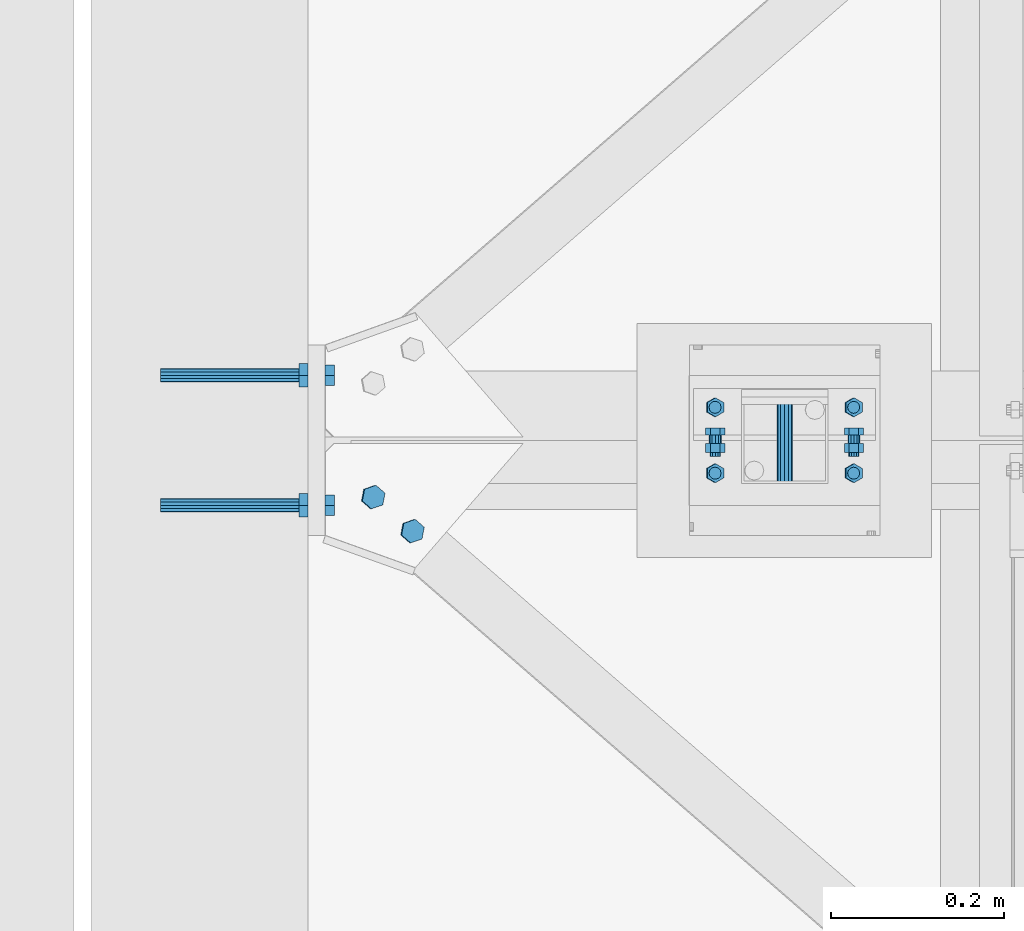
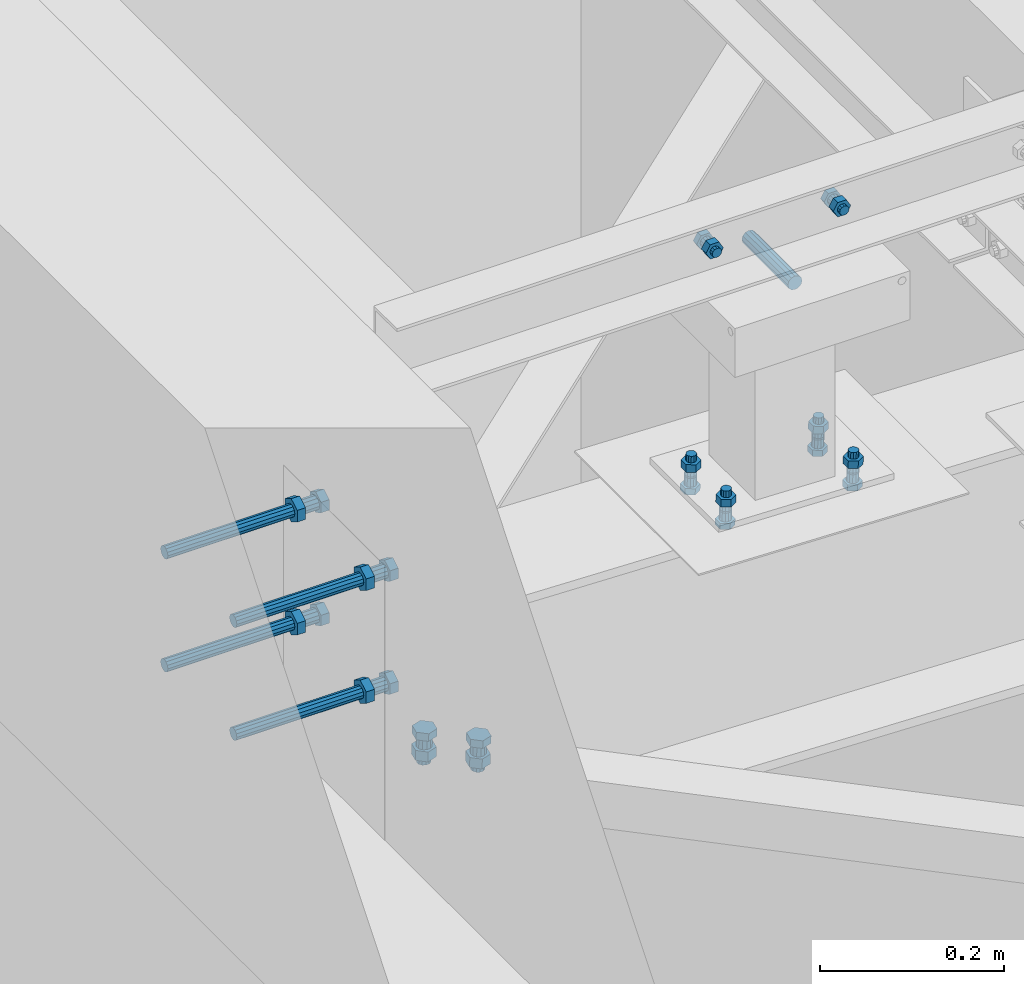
# One storey, part 234 of 3134: 6 mechanical fasteners, 3 elements without a shape of their own.
"""IFC2X3 building model written with IfcOpenShell, lengths in millimetres."""

from ifc_helpers import new_model, si_unit, frame, origin_with_axes, place, context, subcontext, project, spatial, faceted_brep, source, transform, mapped, material, type_object, element, aggregate, save


model = new_model("IFC2X3")

# Units and contexts
model_context = context("Model", 3, precision=1e-05, world=origin_with_axes())
body_context = subcontext(model_context, "Body", "Model", "MODEL_VIEW")
ifc_project = project(units=[si_unit("LENGTHUNIT", "METRE", prefix="MILLI"), si_unit("AREAUNIT", "SQUARE_METRE"), si_unit("VOLUMEUNIT", "CUBIC_METRE"), si_unit("MASSUNIT", "GRAM", prefix="KILO"), si_unit("TIMEUNIT", "SECOND"), si_unit("PLANEANGLEUNIT", "RADIAN"), si_unit("SOLIDANGLEUNIT", "STERADIAN"), si_unit("THERMODYNAMICTEMPERATUREUNIT", "DEGREE_CELSIUS"), si_unit("LUMINOUSINTENSITYUNIT", "LUMEN")], contexts=[model_context])

# Site, building, storey
site_placement = place(None, origin_with_axes())
site = spatial("IfcSite", under=ifc_project, at=site_placement, CompositionType="ELEMENT")
building_placement = place(site_placement, origin_with_axes())
building = spatial("IfcBuilding", under=site, at=building_placement, Name="Undefined", CompositionType="ELEMENT")
storey_placement = place(building_placement, origin_with_axes())
storey = spatial("IfcBuildingStorey", under=building, at=storey_placement, Name="Undefined", CompositionType="ELEMENT", Elevation=0.0)

# Assembly, mechanical fastener
assembly_1_placement = place(storey_placement, origin_with_axes())
assembly_1 = element("IfcElementAssembly", 1, at=assembly_1_placement, inside=storey, AssemblyPlace="NOTDEFINED", PredefinedType="RIGID_FRAME")
ifc_material_1 = material(Name="8.8")
mechanical_fastener_type = type_object("IfcMechanicalFastenerType", Name="Bolt assembly")
shared_shape_1 = source(origin_with_axes(), body_context, "Body", "Brep", [
    faceted_brep([(10.9696551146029, -14.0, 0.0), (5.48482755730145, -14.0, 9.5), (-5.48482755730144, -14.0, 9.5), (-10.9696551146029, -14.0, 1.34339530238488e-15), (-5.48482755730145, -14.0, -9.5), (5.48482755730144, -14.0, -9.50000000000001), (5.48482755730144, -6.0, -9.50000000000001), (-5.48482755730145, -6.0, -9.5), (-10.9696551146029, -6.0, 1.34339530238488e-15), (-5.48482755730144, -6.0, 9.5), (5.48482755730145, -6.0, 9.5), (10.9696551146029, -6.0, 0.0), (6.0, -6.0, 0.0), (5.19615242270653, -6.0, 3.00000000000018), (2.99999999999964, -6.0, 5.19615242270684), (-6.21801588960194e-13, -6.0, 6.0), (-3.00000000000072, -6.0, 5.19615242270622), (-5.19615242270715, -6.0, 2.9999999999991), (-6.0, -6.0, -1.24360317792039e-12), (-5.19615242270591, -6.0, -3.00000000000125), (-2.99999999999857, -6.0, -5.19615242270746), (1.85874342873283e-12, -6.0, -6.0), (3.00000000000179, -6.0, -5.1961524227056), (5.19615242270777, -6.0, -2.99999999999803), (5.19615242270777, 19.0, -2.99999999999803), (3.00000000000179, 19.0, -5.1961524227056), (1.85874342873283e-12, 19.0, -6.0), (-2.99999999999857, 19.0, -5.19615242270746), (-5.19615242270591, 19.0, -3.00000000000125), (-6.0, 19.0, -1.24360317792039e-12), (-5.19615242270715, 19.0, 2.9999999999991), (-3.00000000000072, 19.0, 5.19615242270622), (-6.21801588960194e-13, 19.0, 6.0), (2.99999999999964, 19.0, 5.19615242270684), (5.19615242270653, 19.0, 3.00000000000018), (6.0, 19.0, 0.0), (10.9696551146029, 4.00000000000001, 0.0), (5.48482755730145, 4.00000000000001, 9.5), (-5.48482755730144, 4.00000000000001, 9.5), (-10.9696551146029, 4.00000000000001, 1.34339530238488e-15), (-5.48482755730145, 4.00000000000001, -9.5), (5.48482755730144, 4.00000000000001, -9.50000000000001), (5.48482755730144, 14.0, -9.50000000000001), (-5.48482755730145, 14.0, -9.5), (-10.9696551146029, 14.0, 1.34339530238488e-15), (-5.48482755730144, 14.0, 9.5), (5.48482755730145, 14.0, 9.5), (10.9696551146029, 14.0, 0.0)], [[[0, 1, 2, 3, 4, 5]], [[6, 7, 8, 9, 10, 11]], [[0, 11, 10, 1]], [[1, 10, 9, 2]], [[2, 9, 8, 3]], [[3, 8, 7, 4]], [[4, 7, 6, 5]], [[5, 6, 11, 0]], [[12, 13, 14, 15, 16, 17, 18, 19, 20, 21, 22, 23]], [[24, 25, 26, 27, 28, 29, 30, 31, 32, 33, 34, 35]], [[12, 35, 34, 13]], [[13, 34, 33, 14]], [[14, 33, 32, 15]], [[15, 32, 31, 16]], [[16, 31, 30, 17]], [[17, 30, 29, 18]], [[18, 29, 28, 19]], [[19, 28, 27, 20]], [[20, 27, 26, 21]], [[21, 26, 25, 22]], [[22, 25, 24, 23]], [[23, 24, 35, 12]], [[36, 37, 38, 39, 40, 41]], [[42, 43, 44, 45, 46, 47]], [[36, 47, 46, 37]], [[37, 46, 45, 38]], [[38, 45, 44, 39]], [[39, 44, 43, 40]], [[40, 43, 42, 41]], [[41, 42, 47, 36]]]),
    faceted_brep([(7.0, -0.1, 0.0), (6.06217782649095, -0.1, 3.50000000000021), (3.49999999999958, -0.1, 6.06217782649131), (-7.25435187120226e-13, -0.1, 7.0), (-3.50000000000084, -0.1, 6.06217782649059), (-6.06217782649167, -0.1, 3.49999999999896), (-7.0, -0.1, -1.45087037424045e-12), (-6.06217782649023, -0.1, -3.50000000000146), (-3.49999999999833, -0.1, -6.06217782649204), (2.1685340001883e-12, -0.1, -7.0), (3.50000000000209, -0.1, -6.06217782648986), (6.0621778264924, -0.1, -3.4999999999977), (6.0621778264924, 4.00000000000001, -3.4999999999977), (3.50000000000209, 4.00000000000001, -6.06217782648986), (2.1685340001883e-12, 4.00000000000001, -7.0), (-3.49999999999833, 4.00000000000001, -6.06217782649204), (-6.06217782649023, 4.00000000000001, -3.50000000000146), (-7.0, 4.00000000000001, -1.45087037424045e-12), (-6.06217782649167, 4.00000000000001, 3.49999999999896), (-3.50000000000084, 4.00000000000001, 6.06217782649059), (-7.25435187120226e-13, 4.00000000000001, 7.0), (3.49999999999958, 4.00000000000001, 6.06217782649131), (6.06217782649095, 4.00000000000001, 3.50000000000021), (7.0, 4.00000000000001, 0.0), (7.0, -5.9, 0.0), (6.06217782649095, -5.9, 3.50000000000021), (3.49999999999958, -5.9, 6.06217782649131), (-7.25435187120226e-13, -5.9, 7.0), (-3.50000000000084, -5.9, 6.06217782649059), (-6.06217782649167, -5.9, 3.49999999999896), (-7.0, -5.9, -1.45087037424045e-12), (-6.06217782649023, -5.9, -3.50000000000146), (-3.49999999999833, -5.9, -6.06217782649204), (2.1685340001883e-12, -5.9, -7.0), (3.50000000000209, -5.9, -6.06217782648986), (6.0621778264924, -5.9, -3.4999999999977), (6.0621778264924, 0.0999999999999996, -3.4999999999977), (3.50000000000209, 0.0999999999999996, -6.06217782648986), (2.1685340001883e-12, 0.0999999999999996, -7.0), (-3.49999999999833, 0.0999999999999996, -6.06217782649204), (-6.06217782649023, 0.0999999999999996, -3.50000000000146), (-7.0, 0.0999999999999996, -1.45087037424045e-12), (-6.06217782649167, 0.0999999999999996, 3.49999999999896), (-3.50000000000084, 0.0999999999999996, 6.06217782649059), (-7.25435187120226e-13, 0.0999999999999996, 7.0), (3.49999999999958, 0.0999999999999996, 6.06217782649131), (6.06217782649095, 0.0999999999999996, 3.50000000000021), (7.0, 0.0999999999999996, 0.0)], [[[0, 1, 2, 3, 4, 5, 6, 7, 8, 9, 10, 11]], [[12, 13, 14, 15, 16, 17, 18, 19, 20, 21, 22, 23]], [[0, 23, 22, 1]], [[1, 22, 21, 2]], [[2, 21, 20, 3]], [[3, 20, 19, 4]], [[4, 19, 18, 5]], [[5, 18, 17, 6]], [[6, 17, 16, 7]], [[7, 16, 15, 8]], [[8, 15, 14, 9]], [[9, 14, 13, 10]], [[10, 13, 12, 11]], [[11, 12, 23, 0]], [[24, 25, 26, 27, 28, 29, 30, 31, 32, 33, 34, 35]], [[36, 37, 38, 39, 40, 41, 42, 43, 44, 45, 46, 47]], [[24, 47, 46, 25]], [[25, 46, 45, 26]], [[26, 45, 44, 27]], [[27, 44, 43, 28]], [[28, 43, 42, 29]], [[29, 42, 41, 30]], [[30, 41, 40, 31]], [[31, 40, 39, 32]], [[32, 39, 38, 33]], [[33, 38, 37, 34]], [[34, 37, 36, 35]], [[35, 36, 47, 24]]]),
])
mechanical_fastener_1_placement = place(assembly_1_placement, frame((20440.0, 60985.0, 10900.0), z_axis=(0.0, 0.0, 1.0), x_axis=(-1.0, 0.0, 0.0)))
mechanical_fastener_1 = element("IfcMechanicalFastener", 2, at=mechanical_fastener_1_placement, type_object=mechanical_fastener_type, material=ifc_material_1, Name="Bolt assembly", NominalDiameter=12.0, NominalLength=25.0, context=body_context, shape_type="MappedRepresentation", body=[
    mapped(shared_shape_1, transform((0.0, 0.0, 0.0))),
    mapped(shared_shape_1, transform((160.0, 0.0, 0.0))),
])

assembly_2_placement = place(storey_placement, origin_with_axes())
assembly_2 = element("IfcElementAssembly", 3, at=assembly_2_placement, inside=storey, AssemblyPlace="NOTDEFINED", PredefinedType="RIGID_FRAME")
shared_shape_2 = source(origin_with_axes(), body_context, "Body", "Brep", [
    faceted_brep([(7.0, 13.0000253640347, 0.0), (6.06217782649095, 13.0000253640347, 3.50000000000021), (3.49999999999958, 13.0000253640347, 6.06217782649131), (-7.25435187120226e-13, 13.0000253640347, 7.0), (-3.50000000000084, 13.0000253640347, 6.06217782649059), (-6.06217782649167, 13.0000253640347, 3.49999999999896), (-7.0, 13.0000253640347, -1.45087037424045e-12), (-6.06217782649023, 13.0000253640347, -3.50000000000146), (-3.49999999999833, 13.0000253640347, -6.06217782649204), (2.1685340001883e-12, 13.0000253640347, -7.0), (3.50000000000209, 13.0000253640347, -6.06217782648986), (6.0621778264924, 13.0000253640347, -3.4999999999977), (6.0621778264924, 15.0999999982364, -3.4999999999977), (3.50000000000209, 15.0999999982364, -6.06217782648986), (2.1685340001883e-12, 15.0999999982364, -7.0), (-3.49999999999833, 15.0999999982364, -6.06217782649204), (-6.06217782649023, 15.0999999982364, -3.50000000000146), (-7.0, 15.0999999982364, -1.45087037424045e-12), (-6.06217782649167, 15.0999999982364, 3.49999999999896), (-3.50000000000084, 15.0999999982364, 6.06217782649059), (-7.25435187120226e-13, 15.0999999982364, 7.0), (3.49999999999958, 15.0999999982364, 6.06217782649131), (6.06217782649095, 15.0999999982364, 3.50000000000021), (7.0, 15.0999999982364, 0.0)], [[[0, 1, 2, 3, 4, 5, 6, 7, 8, 9, 10, 11]], [[12, 13, 14, 15, 16, 17, 18, 19, 20, 21, 22, 23]], [[0, 23, 22, 1]], [[1, 22, 21, 2]], [[2, 21, 20, 3]], [[3, 20, 19, 4]], [[4, 19, 18, 5]], [[5, 18, 17, 6]], [[6, 17, 16, 7]], [[7, 16, 15, 8]], [[8, 15, 14, 9]], [[9, 14, 13, 10]], [[10, 13, 12, 11]], [[11, 12, 23, 0]]]),
])
mechanical_fastener_2_placement = place(assembly_2_placement, frame((20359.2851187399, 61023.0, 10554.9572055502), z_axis=(-0.99951962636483, 0.0, 0.0309922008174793), x_axis=(0.0, -1.0, 0.0)))
mechanical_fastener_2 = element("IfcMechanicalFastener", 4, at=mechanical_fastener_2_placement, type_object=mechanical_fastener_type, material=ifc_material_1, Name="Bolt assembly", NominalDiameter=12.0, NominalLength=2.0, context=body_context, shape_type="MappedRepresentation", body=[
    mapped(shared_shape_2, transform((0.0, -5.32963895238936e-10, -79.9999999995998))),
    mapped(shared_shape_2, transform((76.0, -5.32963895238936e-10, -79.9999999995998))),
    mapped(shared_shape_2, transform((0.0, 5.3114490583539e-10, 79.9999999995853))),
    mapped(shared_shape_2, transform((76.0, 5.3114490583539e-10, 79.9999999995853))),
])
aggregate(assembly_2, [mechanical_fastener_2])

# Mechanical fastener
shared_shape_3 = source(origin_with_axes(), body_context, "Body", "Brep", [
    faceted_brep([(9.0, -50.0, 0.0), (7.79422863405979, -50.0, 4.50000000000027), (4.49999999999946, -50.0, 7.79422863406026), (-9.3270238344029e-13, -50.0, 9.0), (-4.50000000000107, -50.0, 7.79422863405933), (-7.79422863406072, -50.0, 4.49999999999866), (-9.0, -50.0, -1.86540476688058e-12), (-7.79422863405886, -50.0, -4.50000000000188), (-4.49999999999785, -50.0, -7.79422863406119), (2.78811514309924e-12, -50.0, -9.0), (4.50000000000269, -50.0, -7.7942286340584), (7.79422863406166, -50.0, -4.49999999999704), (7.79422863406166, 50.1, -4.49999999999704), (4.50000000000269, 50.1, -7.7942286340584), (2.78811514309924e-12, 50.1, -9.0), (-4.49999999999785, 50.1, -7.79422863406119), (-7.79422863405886, 50.1, -4.50000000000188), (-9.0, 50.1, -1.86540476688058e-12), (-7.79422863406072, 50.1, 4.49999999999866), (-4.50000000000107, 50.1, 7.79422863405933), (-9.3270238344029e-13, 50.1, 9.0), (4.49999999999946, 50.1, 7.79422863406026), (7.79422863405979, 50.1, 4.50000000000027), (9.0, 50.1, 0.0)], [[[0, 1, 2, 3, 4, 5, 6, 7, 8, 9, 10, 11]], [[12, 13, 14, 15, 16, 17, 18, 19, 20, 21, 22, 23]], [[0, 23, 22, 1]], [[1, 22, 21, 2]], [[2, 21, 20, 3]], [[3, 20, 19, 4]], [[4, 19, 18, 5]], [[5, 18, 17, 6]], [[6, 17, 16, 7]], [[7, 16, 15, 8]], [[8, 15, 14, 9]], [[9, 14, 13, 10]], [[10, 13, 12, 11]], [[11, 12, 23, 0]]]),
])
mechanical_fastener_3_placement = place(assembly_1_placement, frame((20360.0, 60985.0, 10851.0), z_axis=(-1.0, 0.0, 0.0), x_axis=(0.0, 0.0, 1.0)))
mechanical_fastener_3 = element("IfcMechanicalFastener", 5, at=mechanical_fastener_3_placement, type_object=mechanical_fastener_type, material=ifc_material_1, Name="Bolt assembly", NominalDiameter=16.0, NominalLength=100.0, context=body_context, shape_type="MappedRepresentation", body=[
    mapped(shared_shape_3, transform((0.0, 0.0, 0.0))),
])

aggregate(assembly_1, [mechanical_fastener_3, mechanical_fastener_1])

# Assembly, mechanical fasteners
assembly_3_placement = place(storey_placement, origin_with_axes())
assembly_3 = element("IfcElementAssembly", 6, at=assembly_3_placement, inside=storey, Name="IPE330", AssemblyPlace="NOTDEFINED", PredefinedType="RIGID_FRAME")
shared_shape_4 = source(origin_with_axes(), body_context, "Body", "Brep", [
    faceted_brep([(13.856406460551, -14.0, 0.0), (6.92820323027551, -14.0, 12.0), (-6.92820323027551, -14.0, 12.0), (-13.856406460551, -14.0, 1.69692038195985e-15), (-6.92820323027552, -14.0, -12.0), (6.9282032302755, -14.0, -12.0), (6.9282032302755, -4.00000145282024, -12.0), (-6.92820323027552, -4.00000145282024, -12.0), (-13.856406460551, -4.00000145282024, 1.69692038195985e-15), (-6.92820323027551, -4.00000145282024, 12.0), (6.92820323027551, -4.00000145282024, 12.0), (13.856406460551, -4.00000145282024, 0.0), (8.0, -4.00000145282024, 0.0), (6.92820323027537, -4.00000145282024, 4.00000000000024), (3.99999999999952, -4.00000145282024, 6.92820323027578), (-8.29068785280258e-13, -4.00000145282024, 8.0), (-4.00000000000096, -4.00000145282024, 6.92820323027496), (-6.9282032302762, -4.00000145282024, 3.99999999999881), (-8.0, -4.00000145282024, -1.65813757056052e-12), (-6.92820323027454, -4.00000145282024, -4.00000000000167), (-3.99999999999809, -4.00000145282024, -6.92820323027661), (2.47832457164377e-12, -4.00000145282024, -8.0), (4.00000000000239, -4.00000145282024, -6.92820323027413), (6.92820323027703, -4.00000145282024, -3.99999999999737), (6.92820323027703, 31.0, -3.99999999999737), (4.00000000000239, 31.0, -6.92820323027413), (2.47832457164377e-12, 31.0, -8.0), (-3.99999999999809, 31.0, -6.92820323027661), (-6.92820323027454, 31.0, -4.00000000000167), (-8.0, 31.0, -1.65813757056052e-12), (-6.9282032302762, 31.0, 3.99999999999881), (-4.00000000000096, 31.0, 6.92820323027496), (-8.29068785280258e-13, 31.0, 8.0), (3.99999999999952, 31.0, 6.92820323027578), (6.92820323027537, 31.0, 4.00000000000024), (8.0, 31.0, 0.0), (13.856406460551, 10.0000943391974, 0.0), (6.92820323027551, 10.0000943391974, 12.0), (-6.92820323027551, 10.0000943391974, 12.0), (-13.856406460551, 10.0000943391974, 1.69692038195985e-15), (-6.92820323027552, 10.0000943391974, -12.0), (6.9282032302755, 10.0000943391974, -12.0), (6.9282032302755, 23.0000943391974, -12.0), (-6.92820323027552, 23.0000943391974, -12.0), (-13.856406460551, 23.0000943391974, 1.69692038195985e-15), (-6.92820323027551, 23.0000943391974, 12.0), (6.92820323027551, 23.0000943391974, 12.0), (13.856406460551, 23.0000943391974, 0.0)], [[[0, 1, 2, 3, 4, 5]], [[6, 7, 8, 9, 10, 11]], [[0, 11, 10, 1]], [[1, 10, 9, 2]], [[2, 9, 8, 3]], [[3, 8, 7, 4]], [[4, 7, 6, 5]], [[5, 6, 11, 0]], [[12, 13, 14, 15, 16, 17, 18, 19, 20, 21, 22, 23]], [[24, 25, 26, 27, 28, 29, 30, 31, 32, 33, 34, 35]], [[12, 35, 34, 13]], [[13, 34, 33, 14]], [[14, 33, 32, 15]], [[15, 32, 31, 16]], [[16, 31, 30, 17]], [[17, 30, 29, 18]], [[18, 29, 28, 19]], [[19, 28, 27, 20]], [[20, 27, 26, 21]], [[21, 26, 25, 22]], [[22, 25, 24, 23]], [[23, 24, 35, 12]], [[36, 37, 38, 39, 40, 41]], [[42, 43, 44, 45, 46, 47]], [[36, 47, 46, 37]], [[37, 46, 45, 38]], [[38, 45, 44, 39]], [[39, 44, 43, 40]], [[40, 43, 42, 41]], [[41, 42, 47, 36]]]),
    faceted_brep([(9.0, 3.90009433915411, 0.0), (7.79422863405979, 3.90009433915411, 4.50000000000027), (4.49999999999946, 3.90009433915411, 7.79422863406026), (-9.3270238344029e-13, 3.90009433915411, 9.0), (-4.50000000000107, 3.90009433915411, 7.79422863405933), (-7.79422863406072, 3.90009433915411, 4.49999999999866), (-9.0, 3.90009433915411, -1.86540476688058e-12), (-7.79422863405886, 3.90009433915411, -4.50000000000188), (-4.49999999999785, 3.90009433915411, -7.79422863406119), (2.78811514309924e-12, 3.90009433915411, -9.0), (4.50000000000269, 3.90009433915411, -7.7942286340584), (7.79422863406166, 3.90009433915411, -4.49999999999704), (7.79422863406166, 10.0000943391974, -4.49999999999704), (4.50000000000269, 10.0000943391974, -7.7942286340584), (2.78811514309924e-12, 10.0000943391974, -9.0), (-4.49999999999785, 10.0000943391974, -7.79422863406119), (-7.79422863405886, 10.0000943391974, -4.50000000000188), (-9.0, 10.0000943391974, -1.86540476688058e-12), (-7.79422863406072, 10.0000943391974, 4.49999999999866), (-4.50000000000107, 10.0000943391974, 7.79422863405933), (-9.3270238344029e-13, 10.0000943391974, 9.0), (4.49999999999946, 10.0000943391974, 7.79422863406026), (7.79422863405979, 10.0000943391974, 4.50000000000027), (9.0, 10.0000943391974, 0.0), (9.0, -3.9, 0.0), (7.79422863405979, -3.9, 4.50000000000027), (4.49999999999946, -3.9, 7.79422863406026), (-9.3270238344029e-13, -3.9, 9.0), (-4.50000000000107, -3.9, 7.79422863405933), (-7.79422863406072, -3.9, 4.49999999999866), (-9.0, -3.9, -1.86540476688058e-12), (-7.79422863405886, -3.9, -4.50000000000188), (-4.49999999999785, -3.9, -7.79422863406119), (2.78811514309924e-12, -3.9, -9.0), (4.50000000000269, -3.9, -7.7942286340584), (7.79422863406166, -3.9, -4.49999999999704), (7.79422863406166, 4.09999854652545, -4.49999999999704), (4.50000000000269, 4.09999854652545, -7.7942286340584), (2.78811514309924e-12, 4.09999854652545, -9.0), (-4.49999999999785, 4.09999854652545, -7.79422863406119), (-7.79422863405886, 4.09999854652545, -4.50000000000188), (-9.0, 4.09999854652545, -1.86540476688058e-12), (-7.79422863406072, 4.09999854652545, 4.49999999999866), (-4.50000000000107, 4.09999854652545, 7.79422863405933), (-9.3270238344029e-13, 4.09999854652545, 9.0), (4.49999999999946, 4.09999854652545, 7.79422863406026), (7.79422863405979, 4.09999854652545, 4.50000000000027), (9.0, 4.09999854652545, 0.0)], [[[0, 1, 2, 3, 4, 5, 6, 7, 8, 9, 10, 11]], [[12, 13, 14, 15, 16, 17, 18, 19, 20, 21, 22, 23]], [[0, 23, 22, 1]], [[1, 22, 21, 2]], [[2, 21, 20, 3]], [[3, 20, 19, 4]], [[4, 19, 18, 5]], [[5, 18, 17, 6]], [[6, 17, 16, 7]], [[7, 16, 15, 8]], [[8, 15, 14, 9]], [[9, 14, 13, 10]], [[10, 13, 12, 11]], [[11, 12, 23, 0]], [[24, 25, 26, 27, 28, 29, 30, 31, 32, 33, 34, 35]], [[36, 37, 38, 39, 40, 41, 42, 43, 44, 45, 46, 47]], [[24, 47, 46, 25]], [[25, 46, 45, 26]], [[26, 45, 44, 27]], [[27, 44, 43, 28]], [[28, 43, 42, 29]], [[29, 42, 41, 30]], [[30, 41, 40, 31]], [[31, 40, 39, 32]], [[32, 39, 38, 33]], [[33, 38, 37, 34]], [[34, 37, 36, 35]], [[35, 36, 47, 24]]]),
])
mechanical_fastener_4_placement = place(assembly_3_placement, frame((19930.7692656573, 60880.1149029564, 10421.1792912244), z_axis=(-0.655215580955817, -0.75516884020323, 0.0203117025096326), x_axis=(-0.754806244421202, 0.655530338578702, 0.0233989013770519)))
mechanical_fastener_4 = element("IfcMechanicalFastener", 7, at=mechanical_fastener_4_placement, type_object=mechanical_fastener_type, material=ifc_material_1, Name="Bolt assembly", NominalDiameter=16.0, NominalLength=35.0, context=body_context, shape_type="MappedRepresentation", body=[
    mapped(shared_shape_4, transform((0.0, 0.0, 0.0))),
    mapped(shared_shape_4, transform((59.9999999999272, 0.0, 5.40239852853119e-10))),
])
ifc_material_2 = material(Name="HILTI-HAS")
shared_shape_5 = source(origin_with_axes(), body_context, "Body", "Brep", [
    faceted_brep([(13.856406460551, -10.56, 0.0), (6.92820323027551, -10.56, 12.0), (-6.92820323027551, -10.56, 12.0), (-13.856406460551, -10.56, 1.69692038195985e-15), (-6.92820323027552, -10.56, -12.0), (6.9282032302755, -10.56, -12.0), (6.9282032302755, 0.0, -12.0), (-6.92820323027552, 0.0, -12.0), (-13.856406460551, 0.0, 1.69692038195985e-15), (-6.92820323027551, 0.0, 12.0), (6.92820323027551, 0.0, 12.0), (13.856406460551, 0.0, 0.0), (8.0, 0.0, 0.0), (6.92820323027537, 0.0, 4.00000000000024), (3.99999999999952, 0.0, 6.92820323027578), (-8.29068785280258e-13, 0.0, 8.0), (-4.00000000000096, 0.0, 6.92820323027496), (-6.9282032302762, 0.0, 3.99999999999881), (-8.0, 0.0, -1.65813757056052e-12), (-6.92820323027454, 0.0, -4.00000000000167), (-3.99999999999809, 0.0, -6.92820323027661), (2.47832457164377e-12, 0.0, -8.0), (4.00000000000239, 0.0, -6.92820323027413), (6.92820323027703, 0.0, -3.99999999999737), (6.92820323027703, 190.0, -3.99999999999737), (4.00000000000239, 190.0, -6.92820323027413), (2.47832457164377e-12, 190.0, -8.0), (-3.99999999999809, 190.0, -6.92820323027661), (-6.92820323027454, 190.0, -4.00000000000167), (-8.0, 190.0, -1.65813757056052e-12), (-6.9282032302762, 190.0, 3.99999999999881), (-4.00000000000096, 190.0, 6.92820323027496), (-8.29068785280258e-13, 190.0, 8.0), (3.99999999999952, 190.0, 6.92820323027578), (6.92820323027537, 190.0, 4.00000000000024), (8.0, 190.0, 0.0), (15.3344231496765, 20.0, 0.0), (7.66721157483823, 20.0, 13.28), (-7.66721157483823, 20.0, 13.28), (-15.3344231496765, 20.0, 1.87792522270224e-15), (-7.66721157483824, 20.0, -13.28), (7.66721157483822, 20.0, -13.28), (7.66721157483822, 30.56, -13.28), (-7.66721157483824, 30.56, -13.28), (-15.3344231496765, 30.56, 1.87792522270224e-15), (-7.66721157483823, 30.56, 13.28), (7.66721157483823, 30.56, 13.28), (15.3344231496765, 30.56, 0.0)], [[[0, 1, 2, 3, 4, 5]], [[6, 7, 8, 9, 10, 11]], [[0, 11, 10, 1]], [[1, 10, 9, 2]], [[2, 9, 8, 3]], [[3, 8, 7, 4]], [[4, 7, 6, 5]], [[5, 6, 11, 0]], [[12, 13, 14, 15, 16, 17, 18, 19, 20, 21, 22, 23]], [[24, 25, 26, 27, 28, 29, 30, 31, 32, 33, 34, 35]], [[12, 35, 34, 13]], [[13, 34, 33, 14]], [[14, 33, 32, 15]], [[15, 32, 31, 16]], [[16, 31, 30, 17]], [[17, 30, 29, 18]], [[18, 29, 28, 19]], [[19, 28, 27, 20]], [[20, 27, 26, 21]], [[21, 26, 25, 22]], [[22, 25, 24, 23]], [[23, 24, 35, 12]], [[36, 37, 38, 39, 40, 41]], [[42, 43, 44, 45, 46, 47]], [[36, 47, 46, 37]], [[37, 46, 45, 38]], [[38, 45, 44, 39]], [[39, 44, 43, 40]], [[40, 43, 42, 41]], [[41, 42, 47, 36]]]),
    faceted_brep([(9.0, -3.46568413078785e-07, 0.0), (7.79422863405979, -3.46568413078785e-07, 4.50000000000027), (4.49999999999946, -3.46568413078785e-07, 7.79422863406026), (-9.3270238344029e-13, -3.46568413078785e-07, 9.0), (-4.50000000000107, -3.46568413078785e-07, 7.79422863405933), (-7.79422863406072, -3.46568413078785e-07, 4.49999999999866), (-9.0, -3.46568413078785e-07, -1.86540476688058e-12), (-7.79422863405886, -3.46568413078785e-07, -4.50000000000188), (-4.49999999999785, -3.46568413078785e-07, -7.79422863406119), (2.78811514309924e-12, -3.46568413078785e-07, -9.0), (4.50000000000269, -3.46568413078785e-07, -7.7942286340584), (7.79422863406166, -3.46568413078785e-07, -4.49999999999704), (7.79422863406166, 20.0999997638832, -4.49999999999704), (4.50000000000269, 20.0999997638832, -7.7942286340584), (2.78811514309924e-12, 20.0999997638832, -9.0), (-4.49999999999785, 20.0999997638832, -7.79422863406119), (-7.79422863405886, 20.0999997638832, -4.50000000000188), (-9.0, 20.0999997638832, -1.86540476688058e-12), (-7.79422863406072, 20.0999997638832, 4.49999999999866), (-4.50000000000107, 20.0999997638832, 7.79422863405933), (-9.3270238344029e-13, 20.0999997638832, 9.0), (4.49999999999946, 20.0999997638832, 7.79422863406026), (7.79422863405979, 20.0999997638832, 4.50000000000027), (9.0, 20.0999997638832, 0.0)], [[[0, 1, 2, 3, 4, 5, 6, 7, 8, 9, 10, 11]], [[12, 13, 14, 15, 16, 17, 18, 19, 20, 21, 22, 23]], [[0, 23, 22, 1]], [[1, 22, 21, 2]], [[2, 21, 20, 3]], [[3, 20, 19, 4]], [[4, 19, 18, 5]], [[5, 18, 17, 6]], [[6, 17, 16, 7]], [[7, 16, 15, 8]], [[8, 15, 14, 9]], [[9, 14, 13, 10]], [[10, 13, 12, 11]], [[11, 12, 23, 0]]]),
])
mechanical_fastener_5_placement = place(assembly_3_placement, frame((19830.0, 60985.0, 10669.4424502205), z_axis=(0.0, 1.0, 0.0), x_axis=(0.0, 0.0, -1.0)))
mechanical_fastener_5 = element("IfcMechanicalFastener", 8, at=mechanical_fastener_5_placement, type_object=mechanical_fastener_type, material=ifc_material_2, Name="Bolt assembly", NominalDiameter=16.0, NominalLength=190.0, context=body_context, shape_type="MappedRepresentation", body=[
    mapped(shared_shape_5, transform((0.0, 0.0, -75.0))),
    mapped(shared_shape_5, transform((150.0, 0.0, -75.0))),
    mapped(shared_shape_5, transform((0.0, 0.0, 75.0))),
    mapped(shared_shape_5, transform((150.0, 0.0, 75.0))),
])
shared_shape_6 = source(origin_with_axes(), body_context, "Body", "Brep", [
    faceted_brep([(10.9696551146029, -6.49073359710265, 0.0), (5.48482755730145, -6.49073359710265, 9.5), (-5.48482755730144, -6.49073359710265, 9.5), (-10.9696551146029, -6.49073359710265, 1.34339530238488e-15), (-5.48482755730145, -6.49073359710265, -9.5), (5.48482755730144, -6.49073359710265, -9.50000000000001), (5.48482755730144, 1.50926640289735, -9.50000000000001), (-5.48482755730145, 1.50926640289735, -9.5), (-10.9696551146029, 1.50926640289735, 1.34339530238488e-15), (-5.48482755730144, 1.50926640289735, 9.5), (5.48482755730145, 1.50926640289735, 9.5), (10.9696551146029, 1.50926640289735, 0.0), (6.0, 1.50926640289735, 0.0), (5.19615242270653, 1.50926640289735, 3.00000000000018), (2.99999999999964, 1.50926640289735, 5.19615242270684), (-6.21801588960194e-13, 1.50926640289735, 6.0), (-3.00000000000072, 1.50926640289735, 5.19615242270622), (-5.19615242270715, 1.50926640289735, 2.9999999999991), (-6.0, 1.50926640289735, -1.24360317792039e-12), (-5.19615242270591, 1.50926640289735, -3.00000000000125), (-2.99999999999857, 1.50926640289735, -5.19615242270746), (1.85874342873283e-12, 1.50926640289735, -6.0), (3.00000000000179, 1.50926640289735, -5.1961524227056), (5.19615242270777, 1.50926640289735, -2.99999999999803), (5.19615242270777, 41.5092664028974, -2.99999999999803), (3.00000000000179, 41.5092664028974, -5.1961524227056), (1.85874342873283e-12, 41.5092664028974, -6.0), (-2.99999999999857, 41.5092664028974, -5.19615242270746), (-5.19615242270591, 41.5092664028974, -3.00000000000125), (-6.0, 41.5092664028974, -1.24360317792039e-12), (-5.19615242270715, 41.5092664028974, 2.9999999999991), (-3.00000000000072, 41.5092664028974, 5.19615242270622), (-6.21801588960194e-13, 41.5092664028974, 6.0), (2.99999999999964, 41.5092664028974, 5.19615242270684), (5.19615242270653, 41.5092664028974, 3.00000000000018), (6.0, 41.5092664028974, 0.0), (10.9696551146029, 23.0139082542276, 0.0), (5.48482755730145, 23.0139082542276, 9.5), (-5.48482755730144, 23.0139082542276, 9.5), (-10.9696551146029, 23.0139082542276, 1.34339530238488e-15), (-5.48482755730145, 23.0139082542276, -9.5), (5.48482755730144, 23.0139082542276, -9.50000000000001), (5.48482755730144, 33.0139082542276, -9.50000000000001), (-5.48482755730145, 33.0139082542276, -9.5), (-10.9696551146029, 33.0139082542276, 1.34339530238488e-15), (-5.48482755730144, 33.0139082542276, 9.5), (5.48482755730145, 33.0139082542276, 9.5), (10.9696551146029, 33.0139082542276, 0.0)], [[[0, 1, 2, 3, 4, 5]], [[6, 7, 8, 9, 10, 11]], [[0, 11, 10, 1]], [[1, 10, 9, 2]], [[2, 9, 8, 3]], [[3, 8, 7, 4]], [[4, 7, 6, 5]], [[5, 6, 11, 0]], [[12, 13, 14, 15, 16, 17, 18, 19, 20, 21, 22, 23]], [[24, 25, 26, 27, 28, 29, 30, 31, 32, 33, 34, 35]], [[12, 35, 34, 13]], [[13, 34, 33, 14]], [[14, 33, 32, 15]], [[15, 32, 31, 16]], [[16, 31, 30, 17]], [[17, 30, 29, 18]], [[18, 29, 28, 19]], [[19, 28, 27, 20]], [[20, 27, 26, 21]], [[21, 26, 25, 22]], [[22, 25, 24, 23]], [[23, 24, 35, 12]], [[36, 37, 38, 39, 40, 41]], [[42, 43, 44, 45, 46, 47]], [[36, 47, 46, 37]], [[37, 46, 45, 38]], [[38, 45, 44, 39]], [[39, 44, 43, 40]], [[40, 43, 42, 41]], [[41, 42, 47, 36]]]),
    faceted_brep([(7.0, 14.9139082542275, 0.0), (6.06217782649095, 14.9139082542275, 3.50000000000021), (3.49999999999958, 14.9139082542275, 6.06217782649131), (-7.25435187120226e-13, 14.9139082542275, 7.0), (-3.50000000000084, 14.9139082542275, 6.06217782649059), (-6.06217782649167, 14.9139082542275, 3.49999999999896), (-7.0, 14.9139082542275, -1.45087037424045e-12), (-6.06217782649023, 14.9139082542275, -3.50000000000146), (-3.49999999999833, 14.9139082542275, -6.06217782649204), (2.1685340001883e-12, 14.9139082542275, -7.0), (3.50000000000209, 14.9139082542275, -6.06217782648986), (6.0621778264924, 14.9139082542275, -3.4999999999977), (6.0621778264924, 23.0139082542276, -3.4999999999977), (3.50000000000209, 23.0139082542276, -6.06217782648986), (2.1685340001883e-12, 23.0139082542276, -7.0), (-3.49999999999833, 23.0139082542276, -6.06217782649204), (-6.06217782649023, 23.0139082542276, -3.50000000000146), (-7.0, 23.0139082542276, -1.45087037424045e-12), (-6.06217782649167, 23.0139082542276, 3.49999999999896), (-3.50000000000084, 23.0139082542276, 6.06217782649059), (-7.25435187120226e-13, 23.0139082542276, 7.0), (3.49999999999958, 23.0139082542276, 6.06217782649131), (6.06217782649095, 23.0139082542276, 3.50000000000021), (7.0, 23.0139082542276, 0.0), (7.0, 1.60926640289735, 0.0), (6.06217782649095, 1.60926640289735, 3.50000000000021), (3.49999999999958, 1.60926640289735, 6.06217782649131), (-7.25435187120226e-13, 1.60926640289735, 7.0), (-3.50000000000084, 1.60926640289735, 6.06217782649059), (-6.06217782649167, 1.60926640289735, 3.49999999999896), (-7.0, 1.60926640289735, -1.45087037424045e-12), (-6.06217782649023, 1.60926640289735, -3.50000000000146), (-3.49999999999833, 1.60926640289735, -6.06217782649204), (2.1685340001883e-12, 1.60926640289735, -7.0), (3.50000000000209, 1.60926640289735, -6.06217782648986), (6.0621778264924, 1.60926640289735, -3.4999999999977), (6.0621778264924, 13.1092664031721, -3.4999999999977), (3.50000000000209, 13.1092664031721, -6.06217782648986), (2.1685340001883e-12, 13.1092664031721, -7.0), (-3.49999999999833, 13.1092664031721, -6.06217782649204), (-6.06217782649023, 13.1092664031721, -3.50000000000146), (-7.0, 13.1092664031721, -1.45087037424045e-12), (-6.06217782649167, 13.1092664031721, 3.49999999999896), (-3.50000000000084, 13.1092664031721, 6.06217782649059), (-7.25435187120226e-13, 13.1092664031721, 7.0), (3.49999999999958, 13.1092664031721, 6.06217782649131), (6.06217782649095, 13.1092664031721, 3.50000000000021), (7.0, 13.1092664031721, 0.0)], [[[0, 1, 2, 3, 4, 5, 6, 7, 8, 9, 10, 11]], [[12, 13, 14, 15, 16, 17, 18, 19, 20, 21, 22, 23]], [[0, 23, 22, 1]], [[1, 22, 21, 2]], [[2, 21, 20, 3]], [[3, 20, 19, 4]], [[4, 19, 18, 5]], [[5, 18, 17, 6]], [[6, 17, 16, 7]], [[7, 16, 15, 8]], [[8, 15, 14, 9]], [[9, 14, 13, 10]], [[10, 13, 12, 11]], [[11, 12, 23, 0]], [[24, 25, 26, 27, 28, 29, 30, 31, 32, 33, 34, 35]], [[36, 37, 38, 39, 40, 41, 42, 43, 44, 45, 46, 47]], [[24, 47, 46, 25]], [[25, 46, 45, 26]], [[26, 45, 44, 27]], [[27, 44, 43, 28]], [[28, 43, 42, 29]], [[29, 42, 41, 30]], [[30, 41, 40, 31]], [[31, 40, 39, 32]], [[32, 39, 38, 33]], [[33, 38, 37, 34]], [[34, 37, 36, 35]], [[35, 36, 47, 24]]]),
])
mechanical_fastener_6_placement = place(assembly_3_placement, frame((20359.2851187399, 61023.0, 10554.9572055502), z_axis=(-0.99951962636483, 0.0, 0.0309922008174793), x_axis=(0.0, -1.0, 0.0)))
mechanical_fastener_6 = element("IfcMechanicalFastener", 9, at=mechanical_fastener_6_placement, type_object=mechanical_fastener_type, material=ifc_material_1, Name="Bolt assembly", NominalDiameter=12.0, NominalLength=40.0, context=body_context, shape_type="MappedRepresentation", body=[
    mapped(shared_shape_6, transform((0.0, -5.32963895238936e-10, -79.9999999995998))),
    mapped(shared_shape_6, transform((76.0, -5.32963895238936e-10, -79.9999999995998))),
    mapped(shared_shape_6, transform((0.0, 5.3114490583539e-10, 79.9999999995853))),
    mapped(shared_shape_6, transform((76.0, 5.3114490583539e-10, 79.9999999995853))),
])
aggregate(assembly_3, [mechanical_fastener_4, mechanical_fastener_5, mechanical_fastener_6])

save(model, "model.ifc")
